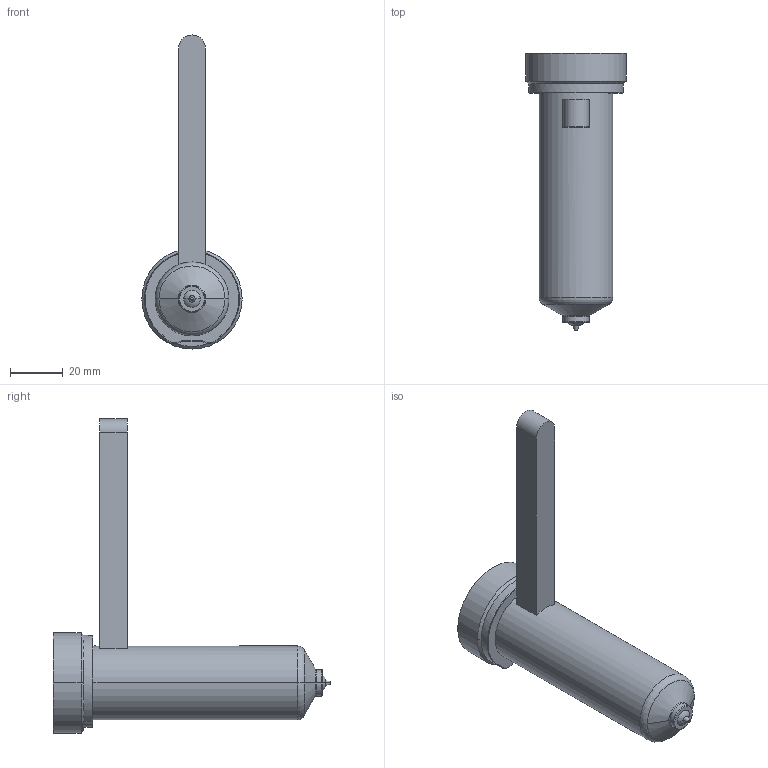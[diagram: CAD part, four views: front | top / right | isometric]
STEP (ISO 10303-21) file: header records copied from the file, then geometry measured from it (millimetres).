
FILE_DESCRIPTION((''),'2;1');
FILE_NAME('EO06_VG-BL_WR_090_COT','2024-02-19T13:03:14',('sundharh'),(''),'CREO PARAMETRIC BY PTC INC, 2023154','CREO PARAMETRIC BY PTC INC, 2023154','');
FILE_SCHEMA(('CONFIG_CONTROL_DESIGN'));
Length unit declared in the file: millimetre
Products named in the file (1): EO06_VG-BL_WR_090_COT
Bounding box: 38 x 105 x 119 mm (x, y, z)
Volume: 75985.5 mm3; surface area: 14547.9 mm2
Topology: 1 solids, 1 shells, 38 faces, 81 edges, 48 vertices
Faces by surface type: cylinder 11, plane 10, torus 9, cone 6, sphere 2
Entity records: 1147 total; most frequent: CARTESIAN_POINT 259, DIRECTION 199, ORIENTED_EDGE 162, AXIS2_PLACEMENT_3D 86, EDGE_CURVE 81, VERTEX_POINT 48, CIRCLE 48, EDGE_LOOP 41
